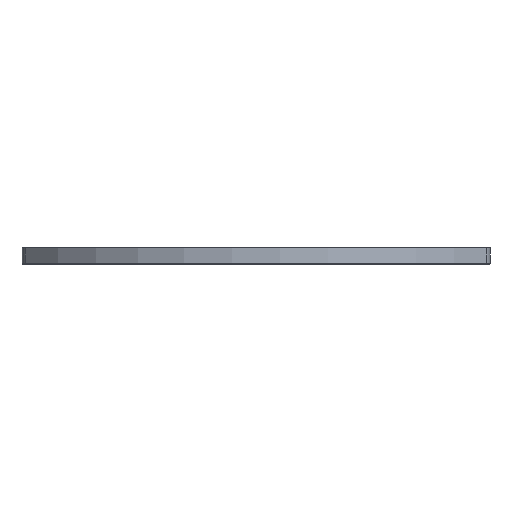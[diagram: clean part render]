
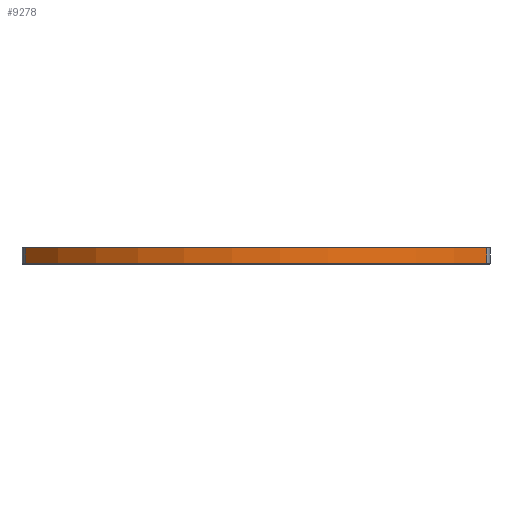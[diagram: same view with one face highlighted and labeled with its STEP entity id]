
A CAD part, top view. The second image highlights one B-rep face of the part: STEP entity #9278.
In plain terms, the highlighted cylindrical face has radius 93.611 mm (diameter 187.222 mm), a partial arc.
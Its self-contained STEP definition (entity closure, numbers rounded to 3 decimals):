
#173 = CIRCLE ( 'NONE', #673, 93.611 ) ;
#333 = AXIS2_PLACEMENT_3D ( 'NONE', #891, #12093, #2363 ) ;
#515 = CARTESIAN_POINT ( 'NONE',  ( 0., -2.5, 31.389 ) ) ;
#673 = AXIS2_PLACEMENT_3D ( 'NONE', #515, #13694, #1727 ) ;
#891 = CARTESIAN_POINT ( 'NONE',  ( 0., 2.5, 31.389 ) ) ;
#1647 = ORIENTED_EDGE ( 'NONE', *, *, #2016, .T. ) ;
#1727 = DIRECTION ( 'NONE',  ( 0., 0., -1. ) ) ;
#2016 = EDGE_CURVE ( 'NONE', #10298, #14057, #4133, .T. ) ;
#2277 = DIRECTION ( 'NONE',  ( 0., -1., 0. ) ) ;
#2363 = DIRECTION ( 'NONE',  ( 0., 0., -1. ) ) ;
#2910 = DIRECTION ( 'NONE',  ( 0., 1., 0. ) ) ;
#4133 = LINE ( 'NONE', #14032, #13387 ) ;
#5646 = EDGE_CURVE ( 'NONE', #13504, #10298, #173, .T. ) ;
#6367 = EDGE_CURVE ( 'NONE', #16022, #13504, #10059, .T. ) ;
#6629 = VECTOR ( 'NONE', #2277, 1000. ) ;
#7063 = CARTESIAN_POINT ( 'NONE',  ( 74.534, -2.5, 88.025 ) ) ;
#7624 = DIRECTION ( 'NONE',  ( 0., 0., -1. ) ) ;
#8118 = EDGE_LOOP ( 'NONE', ( #12135, #9158, #16039, #1647 ) ) ;
#8216 = CARTESIAN_POINT ( 'NONE',  ( -74.534, -2.5, 88.025 ) ) ;
#9158 = ORIENTED_EDGE ( 'NONE', *, *, #6367, .T. ) ;
#9163 = EDGE_CURVE ( 'NONE', #16022, #14057, #14851, .T. ) ;
#9278 = ADVANCED_FACE ( 'NONE', ( #12737 ), #13792, .T. ) ;
#10059 = LINE ( 'NONE', #15017, #6629 ) ;
#10298 = VERTEX_POINT ( 'NONE', #7063 ) ;
#11201 = DIRECTION ( 'NONE',  ( 0., -1., 0. ) ) ;
#11233 = AXIS2_PLACEMENT_3D ( 'NONE', #12578, #11201, #7624 ) ;
#12093 = DIRECTION ( 'NONE',  ( 0., 1., 0. ) ) ;
#12135 = ORIENTED_EDGE ( 'NONE', *, *, #9163, .F. ) ;
#12497 = CARTESIAN_POINT ( 'NONE',  ( 74.534, 2.5, 88.025 ) ) ;
#12578 = CARTESIAN_POINT ( 'NONE',  ( 0., 2.5, 31.389 ) ) ;
#12737 = FACE_OUTER_BOUND ( 'NONE', #8118, .T. ) ;
#13387 = VECTOR ( 'NONE', #2910, 1000. ) ;
#13499 = CARTESIAN_POINT ( 'NONE',  ( -74.534, 2.5, 88.025 ) ) ;
#13504 = VERTEX_POINT ( 'NONE', #8216 ) ;
#13694 = DIRECTION ( 'NONE',  ( 0., 1., 0. ) ) ;
#13792 = CYLINDRICAL_SURFACE ( 'NONE', #11233, 93.611 ) ;
#14032 = CARTESIAN_POINT ( 'NONE',  ( 74.534, 2.5, 88.025 ) ) ;
#14057 = VERTEX_POINT ( 'NONE', #12497 ) ;
#14851 = CIRCLE ( 'NONE', #333, 93.611 ) ;
#15017 = CARTESIAN_POINT ( 'NONE',  ( -74.534, 2.5, 88.025 ) ) ;
#16022 = VERTEX_POINT ( 'NONE', #13499 ) ;
#16039 = ORIENTED_EDGE ( 'NONE', *, *, #5646, .T. ) ;
